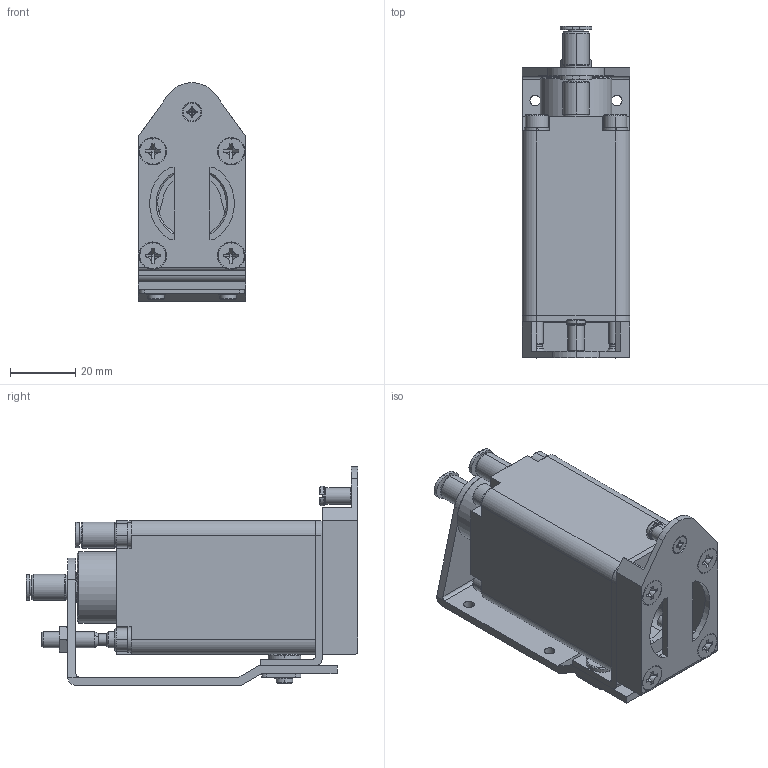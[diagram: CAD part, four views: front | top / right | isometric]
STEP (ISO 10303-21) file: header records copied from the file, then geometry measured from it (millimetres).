
FILE_DESCRIPTION (( 'STEP AP214' ), '1' );
FILE_NAME ('GT-NY15R-4.STEP', '2019-11-26T08:38:19', ( '微软用户' ), ( '微软中国' ), 'SwSTEP 2.0', 'SolidWorks 2016', '' );
FILE_SCHEMA (( 'AUTOMOTIVE_DESIGN' ));
Length unit declared in the file: millimetre
Products named in the file (1): GT-NY15R-4
Bounding box: 33 x 101.7 x 67 mm (x, y, z)
Surface area: 35821.2 mm2 (no closed solid volume)
Topology: 0 solids, 29 shells, 751 faces, 1920 edges, 1247 vertices
Faces by surface type: plane 331, cylinder 252, bspline 114, cone 32, torus 22
Entity records: 31250 total; most frequent: CARTESIAN_POINT 9792, ORIENTED_EDGE 3780, DIRECTION 3454, EDGE_CURVE 1910, AXIS2_PLACEMENT_3D 1316, VERTEX_POINT 1247, EDGE_LOOP 851, VECTOR 822
